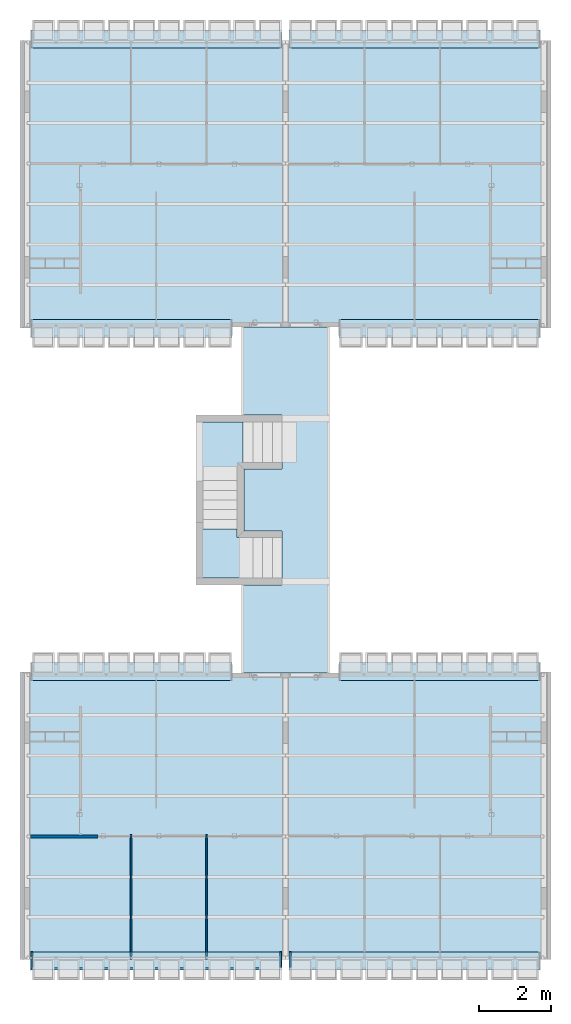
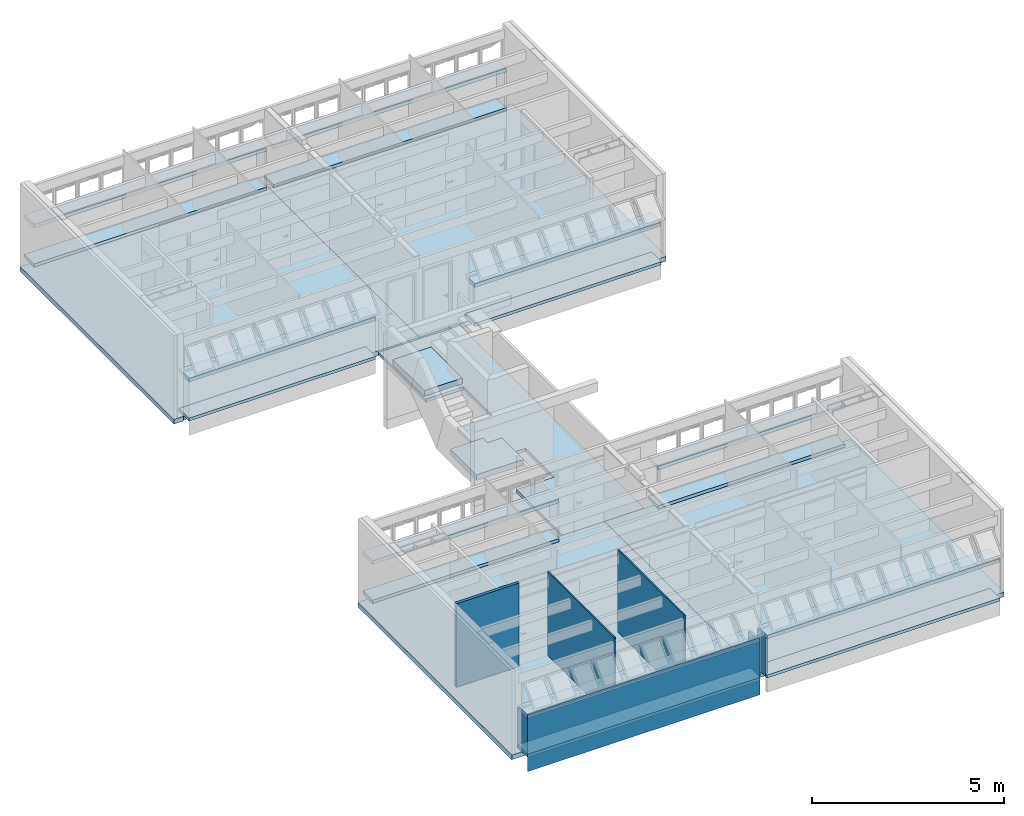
# One storey, part 4 of 37: 23 slabs, 7 walls.
"""IFC2X3 building model written with IfcOpenShell, lengths in millimetres."""

from ifc_helpers import new_model, entity, si_unit, converted_unit, derived_unit, money_unit, direction, frame, origin_with_axes, place, context, subcontext, project, spatial, polyline, outline, extrude, material, layer, layer_set, layer_usage, type_object, element, save


model = new_model("IFC2X3")

# Units and contexts
model_context = context("Model", 3, precision=0.01, world=origin_with_axes(), true_north=direction((0.0, 1.0)))
body_context = subcontext(model_context, "Body", "Model", "MODEL_VIEW")
ifc_project = project(units=[si_unit("LENGTHUNIT", "METRE", prefix="MILLI"), si_unit("AREAUNIT", "SQUARE_METRE"), si_unit("VOLUMEUNIT", "CUBIC_METRE"), converted_unit("PLANEANGLEUNIT", "DEGREE", entity("IfcPlaneAngleMeasure", 0.0174532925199), si_unit("PLANEANGLEUNIT", "RADIAN"), dimensions=[0, 0, 0, 0, 0, 0, 0]), money_unit("USD"), converted_unit("TIMEUNIT", "Year", entity("IfcTimeMeasure", 31556926.0), si_unit("TIMEUNIT", "SECOND"), dimensions=[0, 0, 1, 0, 0, 0, 0]), si_unit("MASSUNIT", "GRAM", prefix="KILO"), si_unit("THERMODYNAMICTEMPERATUREUNIT", "DEGREE_CELSIUS"), si_unit("LUMINOUSINTENSITYUNIT", "LUMEN"), si_unit("ENERGYUNIT", "JOULE", prefix="MEGA"), derived_unit("THERMALCONDUCTANCEUNIT", [(si_unit("POWERUNIT", "WATT"), 1), (si_unit("LENGTHUNIT", "METRE"), -1), (si_unit("THERMODYNAMICTEMPERATUREUNIT", "KELVIN"), -1)]), derived_unit("SPECIFICHEATCAPACITYUNIT", [(si_unit("ENERGYUNIT", "JOULE"), 1), (si_unit("MASSUNIT", "GRAM", prefix="KILO"), -1), (si_unit("THERMODYNAMICTEMPERATUREUNIT", "KELVIN"), -1)]), derived_unit("MASSDENSITYUNIT", [(si_unit("MASSUNIT", "GRAM", prefix="KILO"), 1), (si_unit("VOLUMEUNIT", "CUBIC_METRE"), -1)])], contexts=[model_context])

# Site, building, storey
site_placement = place(None, origin_with_axes())
site = spatial("IfcSite", under=ifc_project, at=site_placement, Name="Local", CompositionType="ELEMENT")
building_placement = place(site_placement, origin_with_axes())
building = spatial("IfcBuilding", under=site, at=building_placement, Name="Construção", CompositionType="ELEMENT")
storey_placement = place(building_placement, origin_with_axes())
storey = spatial("IfcBuildingStorey", under=building, at=storey_placement, Name="Primeiro Pavimento", CompositionType="ELEMENT", Elevation=0.0)

# Slabs
ifc_material_1 = material(Name="Concreto Armado Moldado in Loco - Estrutural")
ifc_layer_1 = layer(ifc_material_1, 150.0, ventilated="UNKNOWN")
ifc_layer_set_1 = layer_set([ifc_layer_1], Name="Concreto Armado Moldado in Loco - Estrutural 150")
ifc_layer_usage_1 = layer_usage(ifc_layer_set_1, "AXIS3", "NEGATIVE", 150.0)
slab_type_1 = type_object("IfcSlabType", Name="Concreto Armado Moldado in Loco - Estrutural 150", PredefinedType="FLOOR")
slab_1_placement = place(storey_placement, frame((14770.0, 25860.0, 0.0), z_axis=(0.0, 0.0, 1.0), x_axis=(1.0, 0.0, 0.0)))
element("IfcSlab", 1, at=slab_1_placement, inside=storey, type_object=slab_type_1, material=ifc_layer_usage_1, Name="APTO4-LAJE-000", PredefinedType="FLOOR", context=body_context, shape_type="SweptSolid", body=[
    extrude(outline(polyline([(0.0, 0.0), (-299.999978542, 0.0), (-7385.0, 0.0), (-7385.0, -7964.99999866), (-6160.00008404, -7964.99999866), (-5900.0, -7965.0), (-290.0, -7965.0), (-289.999999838, -8000.00000006), (0.0, -7999.99999872), (0.0, 0.0)])), frame((0.0, 0.0, -150.0), z_axis=(0.0, 0.0, 1.0), x_axis=(1.0, 0.0, 0.0)), (0.0, 0.0, 1.0), 150.0),
])
ifc_layer_usage_2 = layer_usage(ifc_layer_set_1, "AXIS3", "NEGATIVE", 150.0)
slab_2_placement = place(storey_placement, frame((14770.0, 300.0, 0.0), z_axis=(0.0, 0.0, 1.0), x_axis=(1.0, 0.0, 0.0)))
element("IfcSlab", 2, at=slab_2_placement, inside=storey, type_object=slab_type_1, material=ifc_layer_usage_2, Name="APTO2-LAJE-000", PredefinedType="FLOOR", context=body_context, shape_type="SweptSolid", body=[
    extrude(outline(polyline([(0.0, 0.0), (0.0, 7999.99999872), (-289.999999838, 8000.00000006), (-290.0, 7965.0), (-5900.0, 7965.0), (-6160.00008404, 7964.99999866), (-7385.0, 7964.99999866), (-7385.0, 0.0), (-299.999978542, 0.0), (0.0, 0.0)])), frame((0.0, 0.0, -150.0), z_axis=(0.0, 0.0, 1.0), x_axis=(1.0, 0.0, 0.0)), (0.0, 0.0, 1.0), 150.0),
])
ifc_layer_usage_3 = layer_usage(ifc_layer_set_1, "AXIS3", "NEGATIVE", 150.0)
slab_3_placement = place(storey_placement, frame((0.0, 25860.0, 0.0), z_axis=(0.0, 0.0, 1.0), x_axis=(1.0, 0.0, 0.0)))
element("IfcSlab", 3, at=slab_3_placement, inside=storey, type_object=slab_type_1, material=ifc_layer_usage_3, Name="APTO3-LAJE-000", PredefinedType="FLOOR", context=body_context, shape_type="SweptSolid", body=[
    extrude(outline(polyline([(0.0, 0.0), (0.0, -7999.99999872), (289.999999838, -8000.00000006), (290.0, -7965.0), (5900.0, -7965.0), (6160.00008404, -7964.99999866), (7385.0, -7964.99999866), (7385.0, 0.0), (299.999978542, 0.0), (0.0, 0.0)])), frame((0.0, 0.0, -150.0), z_axis=(0.0, 0.0, 1.0), x_axis=(1.0, 0.0, 0.0)), (0.0, 0.0, 1.0), 150.0),
])
ifc_layer_usage_4 = layer_usage(ifc_layer_set_1, "AXIS3", "NEGATIVE", 150.0)
slab_4_placement = place(storey_placement, frame((0.0, 300.0, 0.0), z_axis=(0.0, 0.0, 1.0), x_axis=(1.0, 0.0, 0.0)))
element("IfcSlab", 4, at=slab_4_placement, inside=storey, type_object=slab_type_1, material=ifc_layer_usage_4, Name="APTO1-LAJE-000", PredefinedType="FLOOR", context=body_context, shape_type="SweptSolid", body=[
    extrude(outline(polyline([(0.0, 0.0), (299.999978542, 0.0), (7385.0, 0.0), (7385.0, 7964.99999866), (6160.00008404, 7964.99999866), (5900.0, 7965.0), (290.0, 7965.0), (289.999999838, 8000.00000006), (0.0, 7999.99999872), (0.0, 0.0)])), frame((0.0, 0.0, -150.0), z_axis=(0.0, 0.0, 1.0), x_axis=(1.0, 0.0, 0.0)), (0.0, 0.0, 1.0), 150.0),
])
ifc_layer_2 = layer(ifc_material_1, 180.0, ventilated="UNKNOWN")
ifc_layer_set_2 = layer_set([ifc_layer_2], Name="Concreto Armado Moldado in Loco - Estrutural 180")
ifc_layer_usage_5 = layer_usage(ifc_layer_set_2, "AXIS3", "NEGATIVE", 180.0)
slab_type_2 = type_object("IfcSlabType", Name="Concreto Armado Moldado in Loco - Estrutural 180", PredefinedType="FLOOR")
slab_5_placement = place(storey_placement, frame((5065.0, 13620.0, 1710.57075871), z_axis=(0.0, 0.0, 1.0), x_axis=(1.0, 0.0, 0.0)))
element("IfcSlab", 5, at=slab_5_placement, inside=storey, type_object=slab_type_2, material=ifc_layer_usage_5, Name="CIRC1-LAJE-005", PredefinedType="FLOOR", context=body_context, shape_type="SweptSolid", body=[
    extrude(outline(polyline([(0.0, 0.0), (1145.0, 0.0), (1145.0, 1630.0), (0.0, 1630.0), (0.0, 0.0)])), frame((0.0, 0.0, -180.0), z_axis=(0.0, 0.0, 1.0), x_axis=(1.0, 0.0, 0.0)), (0.0, 0.0, 1.0), 180.0),
])
ifc_layer_usage_6 = layer_usage(ifc_layer_set_2, "AXIS3", "NEGATIVE", 180.0)
slab_6_placement = place(storey_placement, frame((5065.0, 10910.0, 680.0), z_axis=(0.0, 0.0, 1.0), x_axis=(1.0, 0.0, 0.0)))
element("IfcSlab", 6, at=slab_6_placement, inside=storey, type_object=slab_type_2, material=ifc_layer_usage_6, Name="CIRC1-LAJE-006", PredefinedType="FLOOR", context=body_context, shape_type="SweptSolid", body=[
    extrude(outline(polyline([(0.0, 0.0), (1415.0, 0.0), (1415.0, 1120.0), (975.0, 1120.0), (975.0, 1360.0), (0.0, 1360.0), (0.0, 0.0)])), frame((0.0, 0.0, -180.0), z_axis=(0.0, 0.0, 1.0), x_axis=(1.0, 0.0, 0.0)), (0.0, 0.0, 1.0), 180.0),
])
ifc_layer_3 = layer(ifc_material_1, 120.0, ventilated="UNKNOWN")
ifc_layer_set_3 = layer_set([ifc_layer_3], Name="Concreto Armado Moldado in Loco - Estrutural 120")
ifc_layer_usage_7 = layer_usage(ifc_layer_set_3, "AXIS3", "NEGATIVE", 120.0)
slab_type_3 = type_object("IfcSlabType", Name="Concreto Armado Moldado in Loco - Estrutural 120", PredefinedType="FLOOR")
slab_7_placement = place(storey_placement, frame((14470.0, 26160.0, 1355.0), z_axis=(0.0, 0.0, 1.0), x_axis=(1.0, 0.0, 0.0)))
element("IfcSlab", 7, at=slab_7_placement, inside=storey, type_object=slab_type_3, material=ifc_layer_usage_7, Name="APTO4-LAJE-002", PredefinedType="FLOOR", context=body_context, shape_type="SweptSolid", body=[
    extrude(outline(polyline([(0.0, 0.0), (-6980.0, 0.0), (-6980.0, -510.0), (0.0, -510.0), (0.0, 0.0)])), frame((0.0, 0.0, -120.0), z_axis=(0.0, 0.0, 1.0), x_axis=(1.0, 0.0, 0.0)), (0.0, 0.0, 1.0), 120.0),
])
ifc_layer_usage_8 = layer_usage(ifc_layer_set_3, "AXIS3", "NEGATIVE", 120.0)
slab_8_placement = place(storey_placement, frame((14470.0, 17595.0000013, 1355.0), z_axis=(0.0, 0.0, 1.0), x_axis=(1.0, 0.0, 0.0)))
element("IfcSlab", 8, at=slab_8_placement, inside=storey, type_object=slab_type_3, material=ifc_layer_usage_8, Name="APTO4-LAJE-003", PredefinedType="FLOOR", context=body_context, shape_type="SweptSolid", body=[
    extrude(outline(polyline([(0.0, 0.0), (0.0, 510.0), (-5600.0, 510.0), (-5600.0, 0.0), (0.0, 0.0)])), frame((0.0, 0.0, -120.0), z_axis=(0.0, 0.0, 1.0), x_axis=(1.0, 0.0, 0.0)), (0.0, 0.0, 1.0), 120.0),
])
ifc_layer_usage_9 = layer_usage(ifc_layer_set_3, "AXIS3", "NEGATIVE", 120.0)
slab_9_placement = place(storey_placement, frame((14470.0, 8564.99999866, 1355.0), z_axis=(0.0, 0.0, 1.0), x_axis=(1.0, 0.0, 0.0)))
element("IfcSlab", 9, at=slab_9_placement, inside=storey, type_object=slab_type_3, material=ifc_layer_usage_9, Name="APTO2-LAJE-003", PredefinedType="FLOOR", context=body_context, shape_type="SweptSolid", body=[
    extrude(outline(polyline([(0.0, 0.0), (-5600.0, 0.0), (-5600.0, -510.0), (0.0, -510.0), (0.0, 0.0)])), frame((0.0, 0.0, -120.0), z_axis=(0.0, 0.0, 1.0), x_axis=(1.0, 0.0, 0.0)), (0.0, 0.0, 1.0), 120.0),
])
ifc_layer_usage_10 = layer_usage(ifc_layer_set_3, "AXIS3", "NEGATIVE", 120.0)
slab_10_placement = place(storey_placement, frame((14470.0, -1.05493045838e-10, 1355.0), z_axis=(0.0, 0.0, 1.0), x_axis=(1.0, 0.0, 0.0)))
element("IfcSlab", 10, at=slab_10_placement, inside=storey, type_object=slab_type_3, material=ifc_layer_usage_10, Name="APTO2-LAJE-002", PredefinedType="FLOOR", context=body_context, shape_type="SweptSolid", body=[
    extrude(outline(polyline([(0.0, 0.0), (0.0, 510.0), (-6980.0, 510.0), (-6980.0, 0.0), (0.0, 0.0)])), frame((0.0, 0.0, -120.0), z_axis=(0.0, 0.0, 1.0), x_axis=(1.0, 0.0, 0.0)), (0.0, 0.0, 1.0), 120.0),
])
ifc_layer_usage_11 = layer_usage(ifc_layer_set_3, "AXIS3", "NEGATIVE", 120.0)
slab_11_placement = place(storey_placement, frame((300.0, 17595.0000013, 1355.0), z_axis=(0.0, 0.0, 1.0), x_axis=(1.0, 0.0, 0.0)))
element("IfcSlab", 11, at=slab_11_placement, inside=storey, type_object=slab_type_3, material=ifc_layer_usage_11, Name="APTO3-LAJE-003", PredefinedType="FLOOR", context=body_context, shape_type="SweptSolid", body=[
    extrude(outline(polyline([(0.0, 0.0), (5600.0, 0.0), (5600.0, 510.0), (0.0, 510.0), (0.0, 0.0)])), frame((0.0, 0.0, -120.0), z_axis=(0.0, 0.0, 1.0), x_axis=(1.0, 0.0, 0.0)), (0.0, 0.0, 1.0), 120.0),
])
ifc_layer_usage_12 = layer_usage(ifc_layer_set_3, "AXIS3", "NEGATIVE", 120.0)
slab_12_placement = place(storey_placement, frame((300.0, 26160.0, 1355.0), z_axis=(0.0, 0.0, 1.0), x_axis=(1.0, 0.0, 0.0)))
element("IfcSlab", 12, at=slab_12_placement, inside=storey, type_object=slab_type_3, material=ifc_layer_usage_12, Name="APTO3-LAJE-002", PredefinedType="FLOOR", context=body_context, shape_type="SweptSolid", body=[
    extrude(outline(polyline([(0.0, 0.0), (0.0, -510.0), (6980.0, -510.0), (6980.0, 0.0), (0.0, 0.0)])), frame((0.0, 0.0, -120.0), z_axis=(0.0, 0.0, 1.0), x_axis=(1.0, 0.0, 0.0)), (0.0, 0.0, 1.0), 120.0),
])
ifc_layer_usage_13 = layer_usage(ifc_layer_set_3, "AXIS3", "NEGATIVE", 120.0)
slab_13_placement = place(storey_placement, frame((300.0, 0.0, 1355.0), z_axis=(0.0, 0.0, 1.0), x_axis=(1.0, 0.0, 0.0)))
element("IfcSlab", 13, at=slab_13_placement, inside=storey, type_object=slab_type_3, material=ifc_layer_usage_13, Name="APTO1-LAJE-002", PredefinedType="FLOOR", context=body_context, shape_type="SweptSolid", body=[
    extrude(outline(polyline([(0.0, 0.0), (6980.0, 0.0), (6980.0, 510.0), (0.0, 510.0), (0.0, 0.0)])), frame((0.0, 0.0, -120.0), z_axis=(0.0, 0.0, 1.0), x_axis=(1.0, 0.0, 0.0)), (0.0, 0.0, 1.0), 120.0),
])
ifc_layer_usage_14 = layer_usage(ifc_layer_set_3, "AXIS3", "NEGATIVE", 120.0)
slab_14_placement = place(storey_placement, frame((300.0, 8564.99999866, 1355.0), z_axis=(0.0, 0.0, 1.0), x_axis=(1.0, 0.0, 0.0)))
element("IfcSlab", 14, at=slab_14_placement, inside=storey, type_object=slab_type_3, material=ifc_layer_usage_14, Name="APTO1-LAJE-003", PredefinedType="FLOOR", context=body_context, shape_type="SweptSolid", body=[
    extrude(outline(polyline([(0.0, 0.0), (0.0, -510.0), (5600.0, -510.0), (5600.0, 0.0), (0.0, 0.0)])), frame((0.0, 0.0, -120.0), z_axis=(0.0, 0.0, 1.0), x_axis=(1.0, 0.0, 0.0)), (0.0, 0.0, 1.0), 120.0),
])
ifc_layer_4 = layer(ifc_material_1, 100.0, ventilated="UNKNOWN")
ifc_layer_set_4 = layer_set([ifc_layer_4], Name="Concreto Armado Moldado in Loco - Estrutural 100")
ifc_layer_usage_15 = layer_usage(ifc_layer_set_4, "AXIS3", "NEGATIVE", 100.0)
slab_type_4 = type_object("IfcSlabType", Name="Concreto Armado Moldado in Loco - Estrutural 100", PredefinedType="FLOOR")
slab_15_placement = place(storey_placement, frame((14470.0, 17595.0000013, 100.0), z_axis=(0.0, 0.0, 1.0), x_axis=(1.0, 0.0, 0.0)))
element("IfcSlab", 15, at=slab_15_placement, inside=storey, type_object=slab_type_4, material=ifc_layer_usage_15, Name="APTO4-LAJE-004", PredefinedType="FLOOR", context=body_context, shape_type="SweptSolid", body=[
    extrude(outline(polyline([(0.0, 0.0), (0.0, 510.0), (-5600.0, 510.0), (-5600.0, 0.0), (0.0, 0.0)])), frame((0.0, 0.0, -100.0), z_axis=(0.0, 0.0, 1.0), x_axis=(1.0, 0.0, 0.0)), (0.0, 0.0, 1.0), 100.0),
])
ifc_layer_usage_16 = layer_usage(ifc_layer_set_4, "AXIS3", "NEGATIVE", 100.0)
slab_16_placement = place(storey_placement, frame((14470.0, 26160.0, 100.0), z_axis=(0.0, 0.0, 1.0), x_axis=(1.0, 0.0, 0.0)))
element("IfcSlab", 16, at=slab_16_placement, inside=storey, type_object=slab_type_4, material=ifc_layer_usage_16, Name="APTO4-LAJE-001", PredefinedType="FLOOR", context=body_context, shape_type="SweptSolid", body=[
    extrude(outline(polyline([(0.0, 0.0), (-6980.0, 0.0), (-6980.0, -510.0), (0.0, -510.0), (0.0, 0.0)])), frame((0.0, 0.0, -100.0), z_axis=(0.0, 0.0, 1.0), x_axis=(1.0, 0.0, 0.0)), (0.0, 0.0, 1.0), 100.0),
])
ifc_layer_usage_17 = layer_usage(ifc_layer_set_4, "AXIS3", "NEGATIVE", 100.0)
slab_17_placement = place(storey_placement, frame((14470.0, -1.05493045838e-10, 100.0), z_axis=(0.0, 0.0, 1.0), x_axis=(1.0, 0.0, 0.0)))
element("IfcSlab", 17, at=slab_17_placement, inside=storey, type_object=slab_type_4, material=ifc_layer_usage_17, Name="APTO2-LAJE-001", PredefinedType="FLOOR", context=body_context, shape_type="SweptSolid", body=[
    extrude(outline(polyline([(0.0, 0.0), (0.0, 510.0), (-6980.0, 510.0), (-6980.0, 0.0), (0.0, 0.0)])), frame((0.0, 0.0, -100.0), z_axis=(0.0, 0.0, 1.0), x_axis=(1.0, 0.0, 0.0)), (0.0, 0.0, 1.0), 100.0),
])
ifc_layer_usage_18 = layer_usage(ifc_layer_set_4, "AXIS3", "NEGATIVE", 100.0)
slab_18_placement = place(storey_placement, frame((14470.0, 8564.99999866, 100.0), z_axis=(0.0, 0.0, 1.0), x_axis=(1.0, 0.0, 0.0)))
element("IfcSlab", 18, at=slab_18_placement, inside=storey, type_object=slab_type_4, material=ifc_layer_usage_18, Name="APTO2-LAJE-004", PredefinedType="FLOOR", context=body_context, shape_type="SweptSolid", body=[
    extrude(outline(polyline([(0.0, 0.0), (-5600.0, 0.0), (-5600.0, -510.0), (0.0, -510.0), (0.0, 0.0)])), frame((0.0, 0.0, -100.0), z_axis=(0.0, 0.0, 1.0), x_axis=(1.0, 0.0, 0.0)), (0.0, 0.0, 1.0), 100.0),
])
ifc_layer_usage_19 = layer_usage(ifc_layer_set_4, "AXIS3", "NEGATIVE", 100.0)
slab_19_placement = place(storey_placement, frame((300.0, 26160.0, 100.0), z_axis=(0.0, 0.0, 1.0), x_axis=(1.0, 0.0, 0.0)))
element("IfcSlab", 19, at=slab_19_placement, inside=storey, type_object=slab_type_4, material=ifc_layer_usage_19, Name="APTO3-LAJE-001", PredefinedType="FLOOR", context=body_context, shape_type="SweptSolid", body=[
    extrude(outline(polyline([(0.0, 0.0), (0.0, -510.0), (6980.0, -510.0), (6980.0, 0.0), (0.0, 0.0)])), frame((0.0, 0.0, -100.0), z_axis=(0.0, 0.0, 1.0), x_axis=(1.0, 0.0, 0.0)), (0.0, 0.0, 1.0), 100.0),
])
ifc_layer_usage_20 = layer_usage(ifc_layer_set_4, "AXIS3", "NEGATIVE", 100.0)
slab_20_placement = place(storey_placement, frame((300.0, 17595.0000013, 100.0), z_axis=(0.0, 0.0, 1.0), x_axis=(1.0, 0.0, 0.0)))
element("IfcSlab", 20, at=slab_20_placement, inside=storey, type_object=slab_type_4, material=ifc_layer_usage_20, Name="APTO3-LAJE-004", PredefinedType="FLOOR", context=body_context, shape_type="SweptSolid", body=[
    extrude(outline(polyline([(0.0, 0.0), (5600.0, 0.0), (5600.0, 510.0), (0.0, 510.0), (0.0, 0.0)])), frame((0.0, 0.0, -100.0), z_axis=(0.0, 0.0, 1.0), x_axis=(1.0, 0.0, 0.0)), (0.0, 0.0, 1.0), 100.0),
])
ifc_layer_usage_21 = layer_usage(ifc_layer_set_4, "AXIS3", "NEGATIVE", 100.0)
slab_21_placement = place(storey_placement, frame((300.0, 8564.99999866, 100.0), z_axis=(0.0, 0.0, 1.0), x_axis=(1.0, 0.0, 0.0)))
element("IfcSlab", 21, at=slab_21_placement, inside=storey, type_object=slab_type_4, material=ifc_layer_usage_21, Name="APTO1-LAJE-004", PredefinedType="FLOOR", context=body_context, shape_type="SweptSolid", body=[
    extrude(outline(polyline([(0.0, 0.0), (0.0, -510.0), (5600.0, -510.0), (5600.0, 0.0), (0.0, 0.0)])), frame((0.0, 0.0, -100.0), z_axis=(0.0, 0.0, 1.0), x_axis=(1.0, 0.0, 0.0)), (0.0, 0.0, 1.0), 100.0),
])
ifc_layer_usage_22 = layer_usage(ifc_layer_set_4, "AXIS3", "NEGATIVE", 100.0)
slab_22_placement = place(storey_placement, frame((300.0, 0.0, 100.0), z_axis=(0.0, 0.0, 1.0), x_axis=(1.0, 0.0, 0.0)))
element("IfcSlab", 22, at=slab_22_placement, inside=storey, type_object=slab_type_4, material=ifc_layer_usage_22, Name="APTO1-LAJE-001", PredefinedType="FLOOR", context=body_context, shape_type="SweptSolid", body=[
    extrude(outline(polyline([(0.0, 0.0), (6980.0, 0.0), (6980.0, 510.0), (0.0, 510.0), (0.0, 0.0)])), frame((0.0, 0.0, -100.0), z_axis=(0.0, 0.0, 1.0), x_axis=(1.0, 0.0, 0.0)), (0.0, 0.0, 1.0), 100.0),
])
ifc_layer_usage_23 = layer_usage(ifc_layer_set_4, "AXIS3", "NEGATIVE", 100.0)
slab_23_placement = place(storey_placement, frame((6229.99993205, 13940.0000635, -150.0), z_axis=(0.0, 0.0, 1.0), x_axis=(1.0, 0.0, 0.0)))
element("IfcSlab", 23, at=slab_23_placement, inside=storey, type_object=slab_type_4, material=ifc_layer_usage_23, Name="CIRC1-LAJE-007", PredefinedType="FLOOR", context=body_context, shape_type="SweptSolid", body=[
    extrude(outline(polyline([(0.0, 0.0), (0.0, -1720.00012696), (1060.0001283, -1720.00012696), (1060.0001283, -3220.00011086), (-69.9999320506, -3220.00011086), (-69.9999320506, -5675.00006348), (2380.00006795, -5675.00006348), (2380.00006795, 3954.99993652), (-69.9999320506, 3954.99993652), (-69.9999320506, 1499.99998391), (1060.0001283, 1499.99998391), (1060.0001283, 1309.99988645), (1060.0001283, 0.0), (0.0, 0.0)])), origin_with_axes(), (0.0, 0.0, 1.0), 100.0),
])

# Walls
ifc_material_2 = material(Name="GENÉRICO - VEDAÇÃO EXTERNA")
ifc_layer_5 = layer(ifc_material_2, 40.0, ventilated="UNKNOWN")
ifc_layer_set_5 = layer_set([ifc_layer_5], Name="GENÉRICO - VEDAÇÃO EXTERNA 40")
ifc_layer_usage_24 = layer_usage(ifc_layer_set_5, "AXIS2", "NEGATIVE", 0.0)
wall_type_1 = type_object("IfcWallType", Name="GENÉRICO - VEDAÇÃO EXTERNA 40", PredefinedType="NOTDEFINED")
wall_1_placement = place(storey_placement, frame((3110.0, 3765.0, 0.0), z_axis=(0.0, 0.0, 1.0), x_axis=(0.0, -1.0, 0.0)))
element("IfcWallStandardCase", 24, at=wall_1_placement, inside=storey, type_object=wall_type_1, material=ifc_layer_usage_24, Name="APTO1-PAREDE-007", context=body_context, shape_type="SweptSolid", body=[
    extrude(outline(polyline([(0.0, -40.0), (3465.0, -40.0), (3465.0, 0.0), (0.0, 0.0), (0.0, -40.0)])), origin_with_axes(), (0.0, 0.0, 1.0), 2650.0),
])
ifc_layer_usage_25 = layer_usage(ifc_layer_set_5, "AXIS2", "NEGATIVE", 0.0)
wall_2_placement = place(storey_placement, frame((5210.0, 3765.0, 0.0), z_axis=(0.0, 0.0, 1.0), x_axis=(0.0, -1.0, 0.0)))
element("IfcWallStandardCase", 25, at=wall_2_placement, inside=storey, type_object=wall_type_1, material=ifc_layer_usage_25, Name="APTO1-PAREDE-005", context=body_context, shape_type="SweptSolid", body=[
    extrude(outline(polyline([(0.0, -40.0), (3465.0, -40.0), (3465.0, 0.0), (0.0, 0.0), (0.0, -40.0)])), origin_with_axes(), (0.0, 0.0, 1.0), 2620.0),
])
ifc_layer_6 = layer(ifc_material_2, 90.0, ventilated="UNKNOWN")
ifc_layer_set_6 = layer_set([ifc_layer_6], Name="GENÉRICO - VEDAÇÃO EXTERNA 90")
ifc_layer_usage_26 = layer_usage(ifc_layer_set_6, "AXIS2", "NEGATIVE", 0.0)
wall_type_2 = type_object("IfcWallType", Name="GENÉRICO - VEDAÇÃO EXTERNA 90", PredefinedType="NOTDEFINED")
wall_3_placement = place(storey_placement, frame((290.0, 3765.2195667, 0.0), z_axis=(0.0, 0.0, 1.0), x_axis=(1.0, 0.0, 0.0)))
element("IfcWallStandardCase", 26, at=wall_3_placement, inside=storey, type_object=wall_type_2, material=ifc_layer_usage_26, Name="APTO1-PAREDE-019", context=body_context, shape_type="SweptSolid", body=[
    extrude(outline(polyline([(0.0, -90.0), (1879.99807021, -90.0), (1880.0, 0.0), (0.0, 0.0), (0.0, -90.0)])), origin_with_axes(), (0.0, 0.0, 1.0), 2650.0),
])
ifc_layer_7 = layer(ifc_material_1, 50.0, ventilated="UNKNOWN")
ifc_layer_set_7 = layer_set([ifc_layer_7], Name="Concreto Armado Moldado in Loco - Estrutural 50")
ifc_layer_usage_27 = layer_usage(ifc_layer_set_7, "AXIS2", "POSITIVE", -50.0)
wall_type_3 = type_object("IfcWallType", Name="Concreto Armado Moldado in Loco - Estrutural 50", PredefinedType="NOTDEFINED")
wall_4_placement = place(storey_placement, frame((7540.0, 510.0, 0.0), z_axis=(0.0, 0.0, 1.0), x_axis=(0.0, -1.0, 0.0)))
element("IfcWallStandardCase", 27, at=wall_4_placement, inside=storey, type_object=wall_type_3, material=ifc_layer_usage_27, Name="APTO2-PAREDE-001", context=body_context, shape_type="SweptSolid", body=[
    extrude(outline(polyline([(0.0, -50.0), (435.0, -50.0), (435.0, 0.0), (0.0, 0.0), (0.0, -50.0)])), origin_with_axes(), (0.0, 0.0, 1.0), 1270.0),
])
ifc_layer_usage_28 = layer_usage(ifc_layer_set_7, "AXIS2", "NEGATIVE", 50.0)
wall_5_placement = place(storey_placement, frame((7230.0, 510.0, 0.0), z_axis=(0.0, 0.0, 1.0), x_axis=(0.0, -1.0, 0.0)))
element("IfcWallStandardCase", 28, at=wall_5_placement, inside=storey, type_object=wall_type_3, material=ifc_layer_usage_28, Name="APTO1-PAREDE-001", context=body_context, shape_type="SweptSolid", body=[
    extrude(outline(polyline([(0.0, 0.0), (435.0, 0.0), (435.0, 50.0), (0.0, 50.0), (0.0, 0.0)])), origin_with_axes(), (0.0, 0.0, 1.0), 1270.0),
])
ifc_layer_usage_29 = layer_usage(ifc_layer_set_7, "AXIS2", "NEGATIVE", 50.0)
wall_6_placement = place(storey_placement, frame((300.0, 510.0, 0.0), z_axis=(0.0, 0.0, 1.0), x_axis=(0.0, -1.0, 0.0)))
element("IfcWallStandardCase", 29, at=wall_6_placement, inside=storey, type_object=wall_type_3, material=ifc_layer_usage_29, Name="APTO1-PAREDE-002", context=body_context, shape_type="SweptSolid", body=[
    extrude(outline(polyline([(0.0, 0.0), (510.0, 0.0), (430.0, 50.0), (0.0, 50.0), (0.0, 0.0)])), origin_with_axes(), (0.0, 0.0, 1.0), 1270.0),
])
ifc_layer_8 = layer(ifc_material_1, 80.0, ventilated="UNKNOWN")
ifc_layer_set_8 = layer_set([ifc_layer_8], Name="Concreto Armado Moldado in Loco - Estrutural 80")
ifc_layer_usage_30 = layer_usage(ifc_layer_set_8, "AXIS2", "POSITIVE", -80.0)
wall_type_4 = type_object("IfcWallType", Name="Concreto Armado Moldado in Loco - Estrutural 80", PredefinedType="NOTDEFINED")
wall_7_placement = place(storey_placement, frame((300.0, 80.0, -450.0), z_axis=(0.0, 0.0, 1.0), x_axis=(1.0, 0.0, 0.0)))
element("IfcWallStandardCase", 30, at=wall_7_placement, inside=storey, type_object=wall_type_4, material=ifc_layer_usage_30, Name="APTO1-PAREDE-015", context=body_context, shape_type="SweptSolid", body=[
    extrude(outline(polyline([(0.0, -80.0), (6980.0, -80.0), (6980.0, 0.0), (50.0, 0.0), (0.0, -80.0)])), origin_with_axes(), (0.0, 0.0, 1.0), 1765.0),
])

save(model, "model.ifc")
